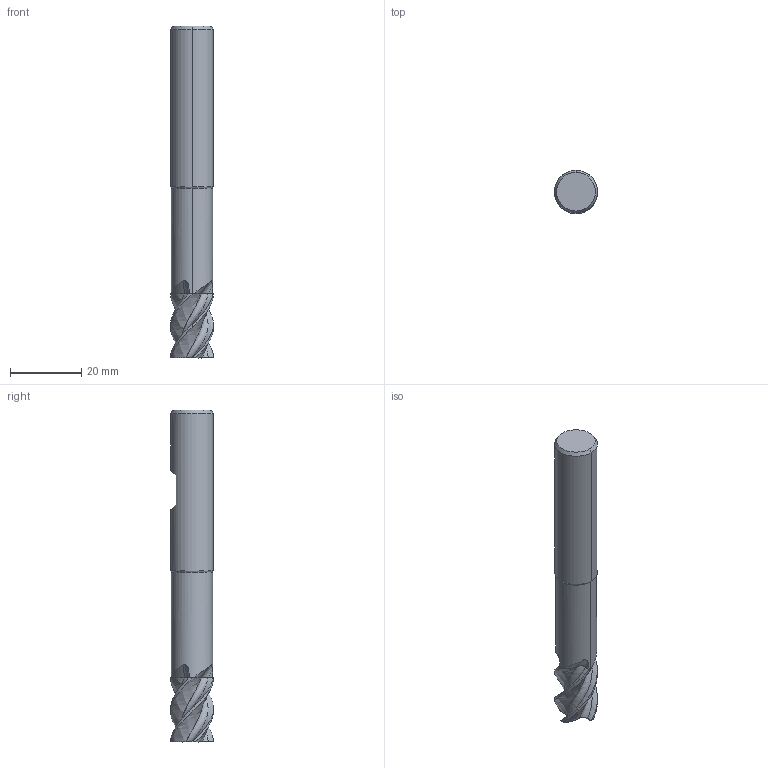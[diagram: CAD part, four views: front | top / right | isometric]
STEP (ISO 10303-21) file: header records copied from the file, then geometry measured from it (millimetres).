
FILE_DESCRIPTION(('no description'),'unknown implementation level');
FILE_NAME('solid71RZj5qui30NB2BH_jAxbvCm4d0_1.STP',' ',('CIMSOURCE GmbH'),('CADClick - KiM GmbH - www.kimweb.de'),'unknown preprocess','ACIS','unknown authorization');
FILE_SCHEMA(('automotive_design'));
Length unit declared in the file: millimetre
Products named in the file (2): NOCUT; CUT
Bounding box: 12 x 12 x 93 mm (x, y, z)
Volume: 9147.3 mm3; surface area: 4523.4 mm2
Topology: 2 solids, 2 shells, 125 faces, 354 edges, 232 vertices
Faces by surface type: bspline 48, plane 27, cone 22, cylinder 16, revolution 12
Entity records: 24916 total; most frequent: CARTESIAN_POINT 18153, STYLED_ITEM 713, PRESENTATION_STYLE_ASSIGNMENT 713, COLOUR_RGB 713, ORIENTED_EDGE 708, DIRECTION 396, EDGE_CURVE 354, CURVE_STYLE 354
